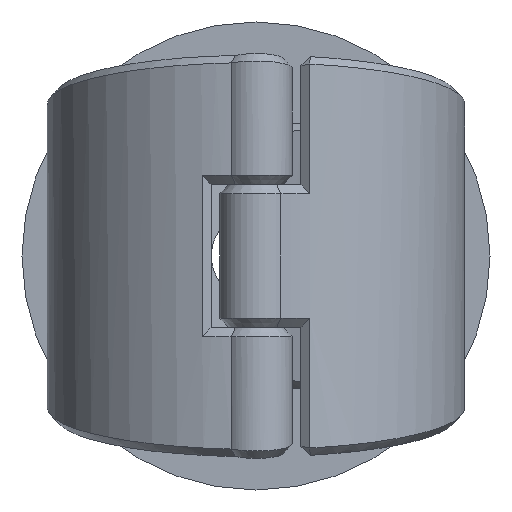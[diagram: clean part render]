
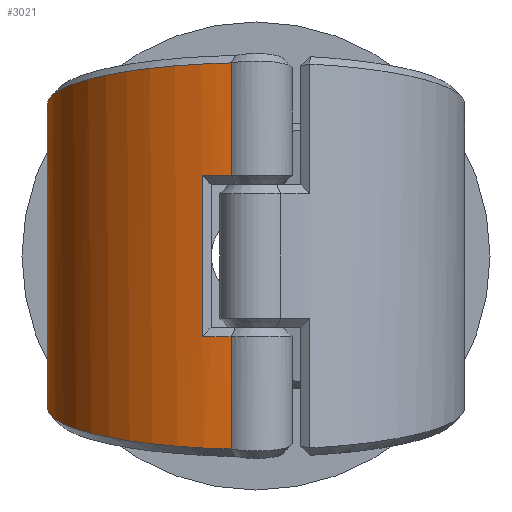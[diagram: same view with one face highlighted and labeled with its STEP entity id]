
A CAD part, front view. The second image highlights one B-rep face of the part: STEP entity #3021.
In plain terms, the highlighted cylindrical face has radius 45.5 mm (diameter 91 mm), a partial arc.
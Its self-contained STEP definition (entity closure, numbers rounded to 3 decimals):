
#212=FACE_OUTER_BOUND('',#416,.T.);
#416=EDGE_LOOP('',(#2055,#2056,#2057,#2058,#2059,#2060,#2061,#2062,#2063,
#2064,#2065,#2066));
#623=CIRCLE('',#3251,45.5);
#626=CIRCLE('',#3256,45.5);
#805=B_SPLINE_CURVE_WITH_KNOTS('',3,(#4498,#4499,#4500,#4501),
 .UNSPECIFIED.,.F.,.F.,(4,4),(-0.004,0.),.UNSPECIFIED.);
#806=B_SPLINE_CURVE_WITH_KNOTS('',3,(#4503,#4504,#4505,#4506),
 .UNSPECIFIED.,.F.,.F.,(4,4),(-3.022,-3.021),
 .UNSPECIFIED.);
#807=B_SPLINE_CURVE_WITH_KNOTS('',3,(#4507,#4508,#4509,#4510,#4511,#4512,
#4513,#4514,#4515,#4516),.UNSPECIFIED.,.F.,.F.,(4,1,1,1,1,1,1,4),(0.315,
0.537,0.954,1.371,1.788,2.205,
2.622,3.021),.UNSPECIFIED.);
#808=B_SPLINE_CURVE_WITH_KNOTS('',3,(#4518,#4519,#4520,#4521,#4522,#4523,
#4524,#4525,#4526,#4527),.UNSPECIFIED.,.F.,.F.,(4,1,1,1,1,1,1,4),(-3.021,
-2.622,-2.205,-1.788,-1.371,
-0.954,-0.537,-0.315),.UNSPECIFIED.);
#809=B_SPLINE_CURVE_WITH_KNOTS('',3,(#4529,#4530,#4531,#4532),
 .UNSPECIFIED.,.F.,.F.,(4,4),(3.021,3.022),
 .UNSPECIFIED.);
#810=B_SPLINE_CURVE_WITH_KNOTS('',3,(#4534,#4535,#4536,#4537),
 .UNSPECIFIED.,.F.,.F.,(4,4),(-1.087,-1.085),
 .UNSPECIFIED.);
#972=LINE('',#4384,#1093);
#979=LINE('',#4432,#1100);
#985=LINE('',#4496,#1106);
#986=LINE('',#4538,#1107);
#1093=VECTOR('',#3575,10.);
#1100=VECTOR('',#3592,10.);
#1106=VECTOR('',#3638,10.);
#1107=VECTOR('',#3639,10.);
#1216=VERTEX_POINT('',#4376);
#1217=VERTEX_POINT('',#4383);
#1229=VERTEX_POINT('',#4426);
#1230=VERTEX_POINT('',#4431);
#1236=VERTEX_POINT('',#4452);
#1239=VERTEX_POINT('',#4473);
#1243=VERTEX_POINT('',#4495);
#1244=VERTEX_POINT('',#4497);
#1245=VERTEX_POINT('',#4502);
#1246=VERTEX_POINT('',#4517);
#1247=VERTEX_POINT('',#4528);
#1248=VERTEX_POINT('',#4533);
#1510=EDGE_CURVE('',#1216,#1217,#972,.T.);
#1524=EDGE_CURVE('',#1229,#1230,#979,.T.);
#1537=EDGE_CURVE('',#1236,#1229,#623,.T.);
#1542=EDGE_CURVE('',#1230,#1239,#626,.T.);
#1548=EDGE_CURVE('',#1243,#1236,#985,.T.);
#1549=EDGE_CURVE('',#1244,#1243,#805,.T.);
#1550=EDGE_CURVE('',#1244,#1245,#806,.T.);
#1551=EDGE_CURVE('',#1217,#1245,#807,.T.);
#1552=EDGE_CURVE('',#1246,#1216,#808,.T.);
#1553=EDGE_CURVE('',#1246,#1247,#809,.T.);
#1554=EDGE_CURVE('',#1248,#1247,#810,.T.);
#1555=EDGE_CURVE('',#1239,#1248,#986,.T.);
#2055=ORIENTED_EDGE('',*,*,#1542,.F.);
#2056=ORIENTED_EDGE('',*,*,#1524,.F.);
#2057=ORIENTED_EDGE('',*,*,#1537,.F.);
#2058=ORIENTED_EDGE('',*,*,#1548,.F.);
#2059=ORIENTED_EDGE('',*,*,#1549,.F.);
#2060=ORIENTED_EDGE('',*,*,#1550,.T.);
#2061=ORIENTED_EDGE('',*,*,#1551,.F.);
#2062=ORIENTED_EDGE('',*,*,#1510,.F.);
#2063=ORIENTED_EDGE('',*,*,#1552,.F.);
#2064=ORIENTED_EDGE('',*,*,#1553,.T.);
#2065=ORIENTED_EDGE('',*,*,#1554,.F.);
#2066=ORIENTED_EDGE('',*,*,#1555,.F.);
#2962=CYLINDRICAL_SURFACE('',#3261,45.5);
#3021=ADVANCED_FACE('',(#212),#2962,.T.);
#3251=AXIS2_PLACEMENT_3D('',#4468,#3614,#3615);
#3256=AXIS2_PLACEMENT_3D('',#4482,#3624,#3625);
#3261=AXIS2_PLACEMENT_3D('',#4494,#3636,#3637);
#3575=DIRECTION('',(0.,0.,1.));
#3592=DIRECTION('',(0.,0.,-1.));
#3614=DIRECTION('center_axis',(0.,0.,-1.));
#3615=DIRECTION('ref_axis',(0.312,-0.95,0.));
#3624=DIRECTION('center_axis',(0.,0.,1.));
#3625=DIRECTION('ref_axis',(0.312,-0.95,0.));
#3636=DIRECTION('center_axis',(0.,0.,1.));
#3637=DIRECTION('ref_axis',(-0.312,0.95,0.));
#3638=DIRECTION('',(0.,0.,-1.));
#3639=DIRECTION('',(0.,0.,-1.));
#4376=CARTESIAN_POINT('',(-14.207,43.225,-24.696));
#4383=CARTESIAN_POINT('',(-14.207,43.225,24.696));
#4384=CARTESIAN_POINT('',(-14.207,43.225,0.));
#4426=CARTESIAN_POINT('',(-11.743,-43.958,17.575));
#4431=CARTESIAN_POINT('',(-11.743,-43.958,-17.575));
#4432=CARTESIAN_POINT('',(-11.743,-43.958,0.));
#4452=CARTESIAN_POINT('',(-5.414,-45.177,17.575));
#4468=CARTESIAN_POINT('Origin',(0.,0.,17.575));
#4473=CARTESIAN_POINT('',(-5.414,-45.177,-17.575));
#4482=CARTESIAN_POINT('Origin',(0.,0.,-17.575));
#4494=CARTESIAN_POINT('Origin',(0.,0.,0.));
#4495=CARTESIAN_POINT('',(-5.414,-45.177,42.06));
#4496=CARTESIAN_POINT('',(-5.414,-45.177,0.));
#4497=CARTESIAN_POINT('',(-5.384,-45.18,42.079));
#4498=CARTESIAN_POINT('Ctrl Pts',(-5.384,-45.18,42.079));
#4499=CARTESIAN_POINT('Ctrl Pts',(-5.394,-45.179,42.072));
#4500=CARTESIAN_POINT('Ctrl Pts',(-5.404,-45.178,42.066));
#4501=CARTESIAN_POINT('Ctrl Pts',(-5.414,-45.176,42.06));
#4502=CARTESIAN_POINT('',(-5.414,-45.177,42.078));
#4503=CARTESIAN_POINT('Ctrl Pts',(-5.384,-45.18,42.079));
#4504=CARTESIAN_POINT('Ctrl Pts',(-5.394,-45.179,42.079));
#4505=CARTESIAN_POINT('Ctrl Pts',(-5.404,-45.178,42.078));
#4506=CARTESIAN_POINT('Ctrl Pts',(-5.414,-45.177,42.078));
#4507=CARTESIAN_POINT('Ctrl Pts',(-14.206,43.222,24.697));
#4508=CARTESIAN_POINT('Ctrl Pts',(-17.433,42.162,24.904));
#4509=CARTESIAN_POINT('Ctrl Pts',(-26.375,38.081,25.7));
#4510=CARTESIAN_POINT('Ctrl Pts',(-38.409,26.828,27.897));
#4511=CARTESIAN_POINT('Ctrl Pts',(-45.992,8.909,31.407));
#4512=CARTESIAN_POINT('Ctrl Pts',(-45.645,-10.475,35.218));
#4513=CARTESIAN_POINT('Ctrl Pts',(-37.531,-28.007,38.678));
#4514=CARTESIAN_POINT('Ctrl Pts',(-23.277,-40.558,41.162));
#4515=CARTESIAN_POINT('Ctrl Pts',(-11.379,-44.461,41.936));
#4516=CARTESIAN_POINT('Ctrl Pts',(-5.414,-45.177,42.078));
#4517=CARTESIAN_POINT('',(-5.414,-45.177,-42.078));
#4518=CARTESIAN_POINT('Ctrl Pts',(-5.414,-45.177,-42.078));
#4519=CARTESIAN_POINT('Ctrl Pts',(-11.379,-44.461,-41.936));
#4520=CARTESIAN_POINT('Ctrl Pts',(-23.277,-40.558,-41.162));
#4521=CARTESIAN_POINT('Ctrl Pts',(-37.531,-28.007,-38.678));
#4522=CARTESIAN_POINT('Ctrl Pts',(-45.645,-10.475,-35.218));
#4523=CARTESIAN_POINT('Ctrl Pts',(-45.992,8.909,-31.407));
#4524=CARTESIAN_POINT('Ctrl Pts',(-38.409,26.828,-27.897));
#4525=CARTESIAN_POINT('Ctrl Pts',(-26.375,38.081,-25.7));
#4526=CARTESIAN_POINT('Ctrl Pts',(-17.433,42.162,-24.904));
#4527=CARTESIAN_POINT('Ctrl Pts',(-14.206,43.222,-24.697));
#4528=CARTESIAN_POINT('',(-5.384,-45.18,-42.079));
#4529=CARTESIAN_POINT('Ctrl Pts',(-5.414,-45.177,-42.078));
#4530=CARTESIAN_POINT('Ctrl Pts',(-5.404,-45.178,-42.078));
#4531=CARTESIAN_POINT('Ctrl Pts',(-5.394,-45.179,-42.079));
#4532=CARTESIAN_POINT('Ctrl Pts',(-5.384,-45.18,-42.079));
#4533=CARTESIAN_POINT('',(-5.414,-45.177,-42.06));
#4534=CARTESIAN_POINT('Ctrl Pts',(-5.414,-45.176,-42.06));
#4535=CARTESIAN_POINT('Ctrl Pts',(-5.404,-45.178,-42.066));
#4536=CARTESIAN_POINT('Ctrl Pts',(-5.394,-45.179,-42.072));
#4537=CARTESIAN_POINT('Ctrl Pts',(-5.384,-45.18,-42.079));
#4538=CARTESIAN_POINT('',(-5.414,-45.177,0.));
